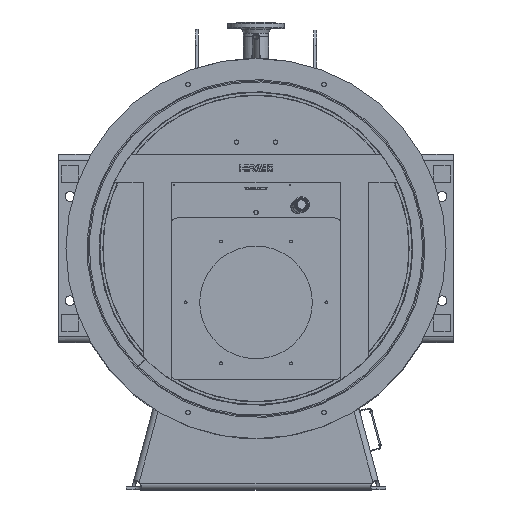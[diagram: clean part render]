
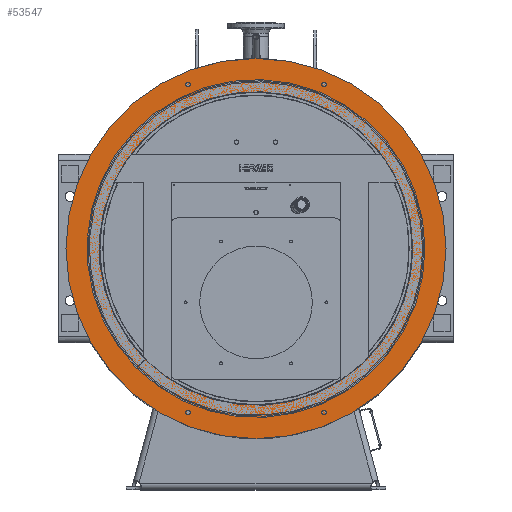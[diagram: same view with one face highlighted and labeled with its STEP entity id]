
A CAD part, top view. The second image highlights one B-rep face of the part: STEP entity #53547.
In plain terms, the highlighted planar face has unit normal (0, 0, 1).
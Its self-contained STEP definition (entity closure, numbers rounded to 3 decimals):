
#34962=CARTESIAN_POINT('',(675.,-0.,191.));
#34963=VERTEX_POINT('',#34962);
#34980=CARTESIAN_POINT('',(0.,0.,191.));
#34981=DIRECTION('',(0.,0.,1.));
#34982=DIRECTION('',(1.,0.,-0.));
#34983=AXIS2_PLACEMENT_3D('',#34980,#34981,#34982);
#34984=CIRCLE('',#34983,675.);
#34985=EDGE_CURVE('',#34963,#34963,#34984,.T.);
#53528=CARTESIAN_POINT('',(0.,0.,191.));
#53529=DIRECTION('',(0.,0.,1.));
#53530=DIRECTION('',(1.,0.,0.));
#53531=AXIS2_PLACEMENT_3D('',#53528,#53529,#53530);
#53532=PLANE('',#53531);
#53533=ORIENTED_EDGE('',*,*,#34985,.T.);
#53534=EDGE_LOOP('',(#53533));
#53535=FACE_BOUND('',#53534,.T.);
#53536=CARTESIAN_POINT('',(544.,-0.,191.));
#53537=VERTEX_POINT('',#53536);
#53538=CARTESIAN_POINT('',(0.,0.,191.));
#53539=DIRECTION('',(0.,0.,1.));
#53540=DIRECTION('',(1.,0.,-0.));
#53541=AXIS2_PLACEMENT_3D('',#53538,#53539,#53540);
#53542=CIRCLE('',#53541,544.);
#53543=EDGE_CURVE('',#53537,#53537,#53542,.T.);
#53544=ORIENTED_EDGE('',*,*,#53543,.F.);
#53545=EDGE_LOOP('',(#53544));
#53546=FACE_BOUND('',#53545,.T.);
#53547=ADVANCED_FACE('',(#53535,#53546),#53532,.T.);
